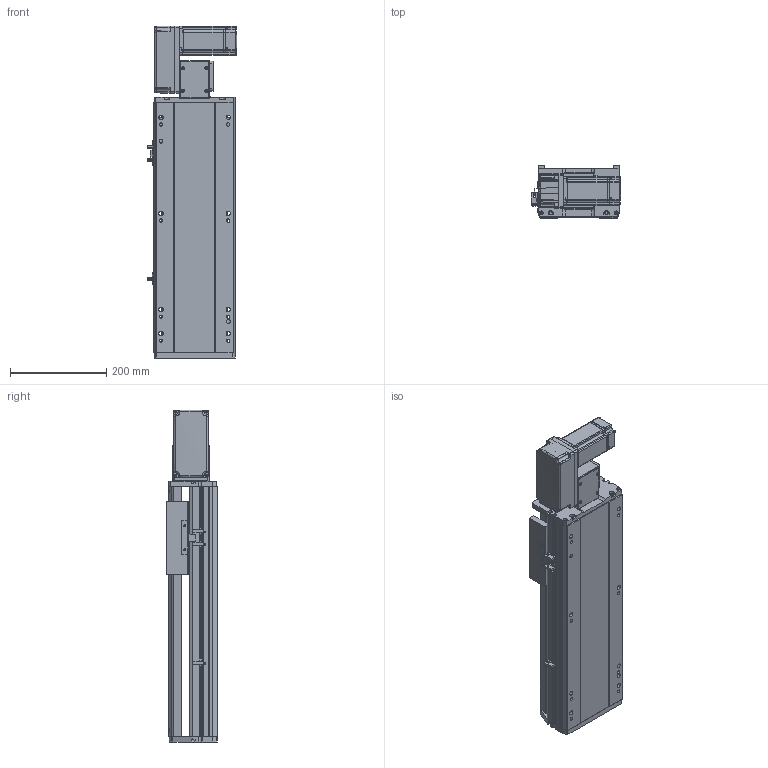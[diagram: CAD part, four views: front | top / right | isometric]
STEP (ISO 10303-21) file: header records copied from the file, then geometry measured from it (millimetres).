
FILE_DESCRIPTION (( 'STEP AP214' ), '1' );
FILE_NAME ('RTB17S-XX-250-L-M40-C4.STEP', '2025-12-11T03:49:47', ( '' ), ( '' ), 'SwSTEP 2.0', 'SolidWorks 2018', '' );
FILE_SCHEMA (( 'AUTOMOTIVE_DESIGN' ));
Length unit declared in the file: millimetre
Products named in the file (14): 400W侜督萇儂^RTB17S-XX-XX-L-M40-C4; RTH13-BL-012覜茼え俋离^RTB17S-XX-XX-L-M40-C4; RTB17S-XX-250-L-M40-C4; OMRON EE-SX672 传感器^RTB17S-XX-XX-L-M40-C4; RTB17S-L-007奻裔^RTB17S-XX-XX-L-M40-C4; RTB17-R-011菁釱^RTB17S-XX-XX-L-M40-C4; RTB17S-L-々湍釱蚾饜-400W^RTB17S-XX-XX-L-M40-C4; RTB14-L-017P^RTB17S-L-々湍釱蚾饜-400W_RTB17S-XX-XX-L-M40-C4; RTB14-L-008-M20--萇儂啣^RTB17S-L-々湍釱蚾饜-400W_RTB17S-XX-XX-L-M40-C4; RTB14-L-018P^RTB17S-L-々湍釱蚾饜-400W_RTB17S-XX-XX-L-M40-C4; RTB17S-L-001耜醱啣^RTB17S-XX-XX-L-M40-C4; RTB14-L-005P--轴承塑胶压盖^RTB17S-L-皮带座装配-400W_RTB17S-XX-XX-L-M40-C4; RMP17S-L-014-T20--々湍釱^RTB17S-L-々湍釱蚾饜-400W_RTB17S-XX-XX-L-M40-C4; RTB17S-L-004佪裝蹟譫蟀諉釱^RTB17S-XX-XX-L-M40-C4
Assembly tree (16 placements, depth 3):
  RTB17S-XX-250-L-M40-C4
    RTB17-R-011菁釱^RTB17S-XX-XX-L-M40-C4
    RTB17S-L-007奻裔^RTB17S-XX-XX-L-M40-C4
    OMRON EE-SX672 传感器^RTB17S-XX-XX-L-M40-C4  x3
    RTB17S-L-001耜醱啣^RTB17S-XX-XX-L-M40-C4
    400W侜督萇儂^RTB17S-XX-XX-L-M40-C4
    RTB17S-L-004佪裝蹟譫蟀諉釱^RTB17S-XX-XX-L-M40-C4
    RTH13-BL-012覜茼え俋离^RTB17S-XX-XX-L-M40-C4
    RTB17S-L-々湍釱蚾饜-400W^RTB17S-XX-XX-L-M40-C4
      RMP17S-L-014-T20--々湍釱^RTB17S-L-々湍釱蚾饜-400W_RTB17S-XX-XX-L-M40-C4
      RTB14-L-005P--轴承塑胶压盖^RTB17S-L-皮带座装配-400W_RTB17S-XX-XX-L-M40-C4
      RTB14-L-008-M20--萇儂啣^RTB17S-L-々湍釱蚾饜-400W_RTB17S-XX-XX-L-M40-C4
      RTB14-L-017P^RTB17S-L-々湍釱蚾饜-400W_RTB17S-XX-XX-L-M40-C4  x2
      RTB14-L-018P^RTB17S-L-々湍釱蚾饜-400W_RTB17S-XX-XX-L-M40-C4
Bounding box: 186 x 108 x 691 mm (x, y, z)
Volume: 6252946.2 mm3; surface area: 832894.9 mm2
Topology: 15 solids, 15 shells, 2157 faces, 5925 edges, 3861 vertices
Faces by surface type: plane 1062, cylinder 647, bspline 301, cone 139, torus 8
Entity records: 60329 total; most frequent: CARTESIAN_POINT 16730, ORIENTED_EDGE 8694, DIRECTION 8126, EDGE_CURVE 4347, VERTEX_POINT 2849, AXIS2_PLACEMENT_3D 2779, VECTOR 2568, LINE 2568
